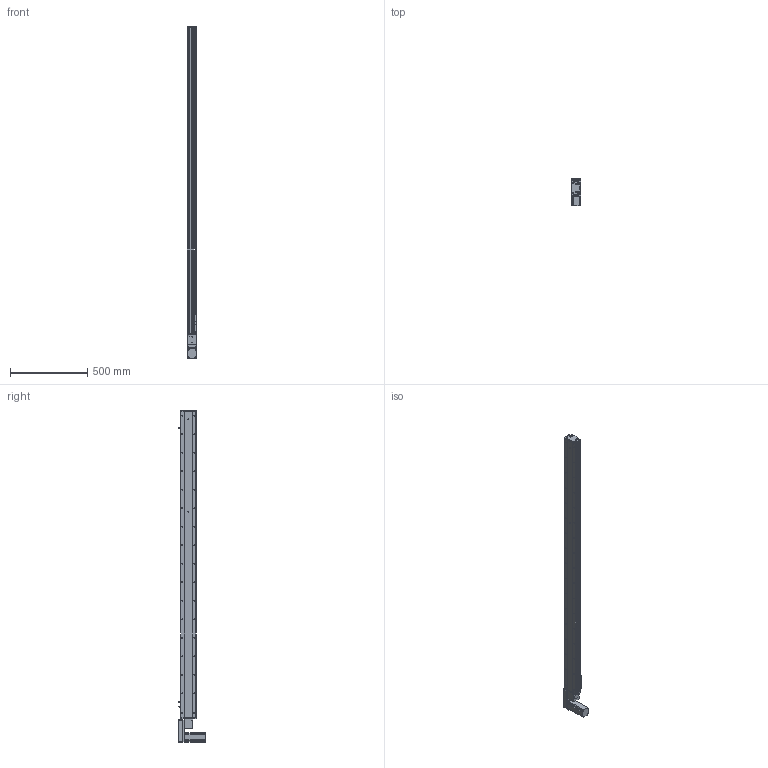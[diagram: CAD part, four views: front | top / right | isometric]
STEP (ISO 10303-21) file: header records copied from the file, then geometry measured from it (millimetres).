
FILE_DESCRIPTION (( 'STEP AP214' ), '1' );
FILE_NAME ('KSD100B-S1800-MLB-CM.STEP', '2019-08-31T02:31:16', ( '微软用户' ), ( '微软中国' ), 'SwSTEP 2.0', 'SolidWorks 2014', '' );
FILE_SCHEMA (( 'AUTOMOTIVE_DESIGN' ));
Length unit declared in the file: millimetre
Products named in the file (12): 100宽防尘板1800行程-同步带; 100宽马达安装板同步带左; 100宽同步带安装板半封闭; 100宽马达安装板同步带; 100遵傷啣肮祭湍; 100宽底板半封闭同步带1800行程; KSD100B-S1800-MLB-CM; 悵誘欶奻狟殏; 100宽马达安装板连板上下折丝杆同步带; 台达ECMA－C20604AS伺服电机; U倰嫖萇EEㄜSX672; 覜茼え100遵圉猾敕
Assembly tree (13 placements, depth 2):
  KSD100B-S1800-MLB-CM
    100宽底板半封闭同步带1800行程
    100遵傷啣肮祭湍
    100宽马达安装板同步带
    100宽同步带安装板半封闭
    100宽马达安装板同步带左
    100宽防尘板1800行程-同步带
    覜茼え100遵圉猾敕
    U倰嫖萇EEㄜSX672  x3
    台达ECMA－C20604AS伺服电机
    100宽马达安装板连板上下折丝杆同步带
    悵誘欶奻狟殏
Bounding box: 61 x 174.7 x 2153 mm (x, y, z)
Volume: 4274404.4 mm3; surface area: 1465179.1 mm2
Topology: 14 solids, 14 shells, 1699 faces, 4826 edges, 3037 vertices
Faces by surface type: cylinder 889, plane 619, cone 191
Entity records: 62631 total; most frequent: CARTESIAN_POINT 13520, DIRECTION 8430, ORIENTED_EDGE 8176, EDGE_CURVE 4088, AXIS2_PLACEMENT_3D 3109, VERTEX_POINT 2661, LINE 2212, VECTOR 2212
